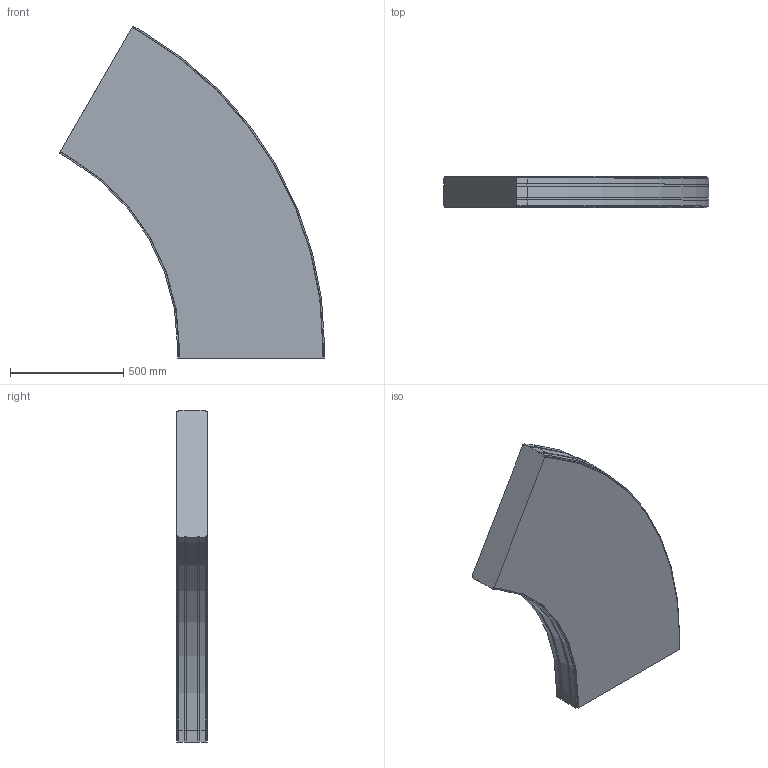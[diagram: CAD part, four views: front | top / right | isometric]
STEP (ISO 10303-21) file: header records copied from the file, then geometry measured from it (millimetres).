
FILE_DESCRIPTION (( 'STEP AP214' ), '1' );
FILE_NAME ('FS-MTC2-150-INOX horizontaalbocht.650 60°.STEP', '2017-02-08T12:40:46', ( '' ), ( '' ), 'SwSTEP 2.0', 'SolidWorks 2016', '' );
FILE_SCHEMA (( 'AUTOMOTIVE_DESIGN' ));
Length unit declared in the file: millimetre
Products named in the file (1): FS-MTC2-150-INOX horizontaalbocht.650 60°
Bounding box: 1173.34 x 136.5 x 1468.94 mm (x, y, z)
Volume: 127907836.6 mm3; surface area: 2480972.6 mm2
Topology: 1 solids, 1 shells, 74 faces, 216 edges, 144 vertices
Faces by surface type: plane 56, cylinder 18
Entity records: 2470 total; most frequent: CARTESIAN_POINT 435, ORIENTED_EDGE 432, DIRECTION 402, EDGE_CURVE 216, VECTOR 180, LINE 180, VERTEX_POINT 144, AXIS2_PLACEMENT_3D 111
